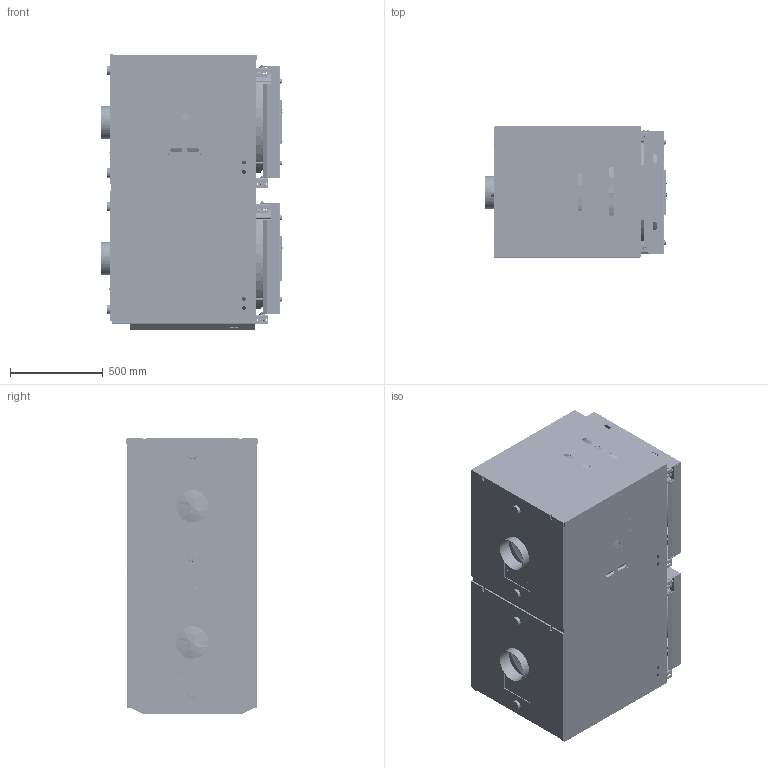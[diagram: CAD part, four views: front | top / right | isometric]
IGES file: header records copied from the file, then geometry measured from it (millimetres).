
Start section: START RECORD GO HERE.
Global section: file name: 20067746_aperta.igs; native system: DASSAULT SYSTEMES CATIA V5 R20 - www.3ds.com; preprocessor: CATIA Version 5 Release 20 SP 6 ; author: Riello S.p.A.; organization: RIELLO-IT; date: 20131017.143346; units: millimetre
Bounding box: 974.75 x 706 x 1484 mm (x, y, z)
Surface area: 39233896.9 mm2 (no closed solid volume)
Topology: 0 solids, 0 shells, 8054 faces, 38774 edges, 38668 vertices
Faces by surface type: plane 3856, bspline 2264, revolution 1934
